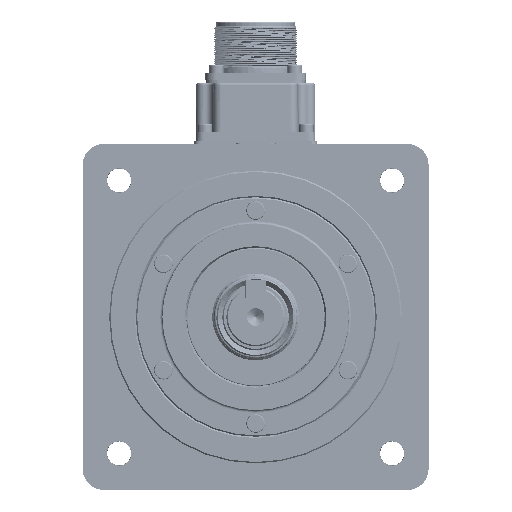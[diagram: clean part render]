
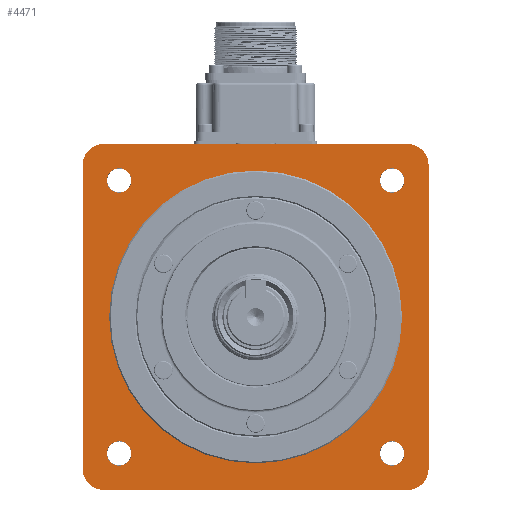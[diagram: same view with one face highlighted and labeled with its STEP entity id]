
A CAD part, front view. The second image highlights one B-rep face of the part: STEP entity #4471.
In plain terms, the highlighted planar face has unit normal (0, -1, 0).
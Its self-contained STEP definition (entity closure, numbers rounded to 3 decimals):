
#4471 = ADVANCED_FACE( '', ( #10458, #10459, #10460, #10461, #10462, #10463 ), #10464, .F. );
#10458 = FACE_BOUND( '', #21701, .T. );
#10459 = FACE_OUTER_BOUND( '', #21702, .T. );
#10460 = FACE_BOUND( '', #21703, .T. );
#10461 = FACE_BOUND( '', #21704, .T. );
#10462 = FACE_BOUND( '', #21705, .T. );
#10463 = FACE_BOUND( '', #21706, .T. );
#10464 = PLANE( '', #21707 );
#21701 = EDGE_LOOP( '', ( #45084 ) );
#21702 = EDGE_LOOP( '', ( #45085, #45086, #45087, #45088, #45089, #45090, #45091, #45092 ) );
#21703 = EDGE_LOOP( '', ( #45093 ) );
#21704 = EDGE_LOOP( '', ( #45094 ) );
#21705 = EDGE_LOOP( '', ( #45095 ) );
#21706 = EDGE_LOOP( '', ( #45096 ) );
#21707 = AXIS2_PLACEMENT_3D( '', #45097, #45098, #45099 );
#45084 = ORIENTED_EDGE( '', *, *, #66728, .F. );
#45085 = ORIENTED_EDGE( '', *, *, #66729, .F. );
#45086 = ORIENTED_EDGE( '', *, *, #66730, .T. );
#45087 = ORIENTED_EDGE( '', *, *, #66731, .F. );
#45088 = ORIENTED_EDGE( '', *, *, #66732, .T. );
#45089 = ORIENTED_EDGE( '', *, *, #66733, .F. );
#45090 = ORIENTED_EDGE( '', *, *, #66734, .T. );
#45091 = ORIENTED_EDGE( '', *, *, #65460, .F. );
#45092 = ORIENTED_EDGE( '', *, *, #66517, .T. );
#45093 = ORIENTED_EDGE( '', *, *, #66735, .F. );
#45094 = ORIENTED_EDGE( '', *, *, #66736, .F. );
#45095 = ORIENTED_EDGE( '', *, *, #66737, .F. );
#45096 = ORIENTED_EDGE( '', *, *, #65860, .F. );
#45097 = CARTESIAN_POINT( '', ( 0., 1.2, 55. ) );
#45098 = DIRECTION( '', ( 0., 1., 0. ) );
#45099 = DIRECTION( '', ( 0., 0., 1. ) );
#65460 = EDGE_CURVE( '', #74963, #74966, #74967, .F. );
#65860 = EDGE_CURVE( '', #75653, #75653, #75654, .F. );
#66517 = EDGE_CURVE( '', #74963, #76818, #76820, .T. );
#66728 = EDGE_CURVE( '', #77170, #77170, #77171, .T. );
#66729 = EDGE_CURVE( '', #77172, #76818, #77173, .F. );
#66730 = EDGE_CURVE( '', #77172, #77174, #77175, .T. );
#66731 = EDGE_CURVE( '', #77176, #77174, #77177, .F. );
#66732 = EDGE_CURVE( '', #77176, #77178, #77179, .T. );
#66733 = EDGE_CURVE( '', #77180, #77178, #77181, .F. );
#66734 = EDGE_CURVE( '', #77180, #74966, #77182, .T. );
#66735 = EDGE_CURVE( '', #77183, #77183, #77184, .F. );
#66736 = EDGE_CURVE( '', #77185, #77185, #77186, .F. );
#66737 = EDGE_CURVE( '', #77187, #77187, #77188, .F. );
#74963 = VERTEX_POINT( '', #88273 );
#74966 = VERTEX_POINT( '', #88277 );
#74967 = CIRCLE( '', #88278, 8. );
#75653 = VERTEX_POINT( '', #90933 );
#75654 = CIRCLE( '', #90934, 4.6 );
#76818 = VERTEX_POINT( '', #93465 );
#76820 = LINE( '', #93468, #93469 );
#77170 = VERTEX_POINT( '', #94047 );
#77171 = CIRCLE( '', #94048, 55. );
#77172 = VERTEX_POINT( '', #94049 );
#77173 = CIRCLE( '', #94050, 8. );
#77174 = VERTEX_POINT( '', #94051 );
#77175 = LINE( '', #94052, #94053 );
#77176 = VERTEX_POINT( '', #94054 );
#77177 = CIRCLE( '', #94055, 8. );
#77178 = VERTEX_POINT( '', #94056 );
#77179 = LINE( '', #94057, #94058 );
#77180 = VERTEX_POINT( '', #94059 );
#77181 = CIRCLE( '', #94060, 8. );
#77182 = LINE( '', #94061, #94062 );
#77183 = VERTEX_POINT( '', #94063 );
#77184 = CIRCLE( '', #94064, 4.6 );
#77185 = VERTEX_POINT( '', #94065 );
#77186 = CIRCLE( '', #94066, 4.6 );
#77187 = VERTEX_POINT( '', #94067 );
#77188 = CIRCLE( '', #94068, 4.6 );
#88273 = CARTESIAN_POINT( '', ( 57., 1.2, 65. ) );
#88277 = CARTESIAN_POINT( '', ( 65., 1.2, 57. ) );
#88278 = AXIS2_PLACEMENT_3D( '', #115438, #115439, #115440 );
#90933 = CARTESIAN_POINT( '', ( 51.265, 1.2, 55.866 ) );
#90934 = AXIS2_PLACEMENT_3D( '', #115895, #115896, #115897 );
#93465 = CARTESIAN_POINT( '', ( -57., 1.2, 65. ) );
#93468 = CARTESIAN_POINT( '', ( 65., 1.2, 65. ) );
#93469 = VECTOR( '', #116561, 1000. );
#94047 = CARTESIAN_POINT( '', ( 0., 1.2, -55. ) );
#94048 = AXIS2_PLACEMENT_3D( '', #116794, #116795, #116796 );
#94049 = CARTESIAN_POINT( '', ( -65., 1.2, 57. ) );
#94050 = AXIS2_PLACEMENT_3D( '', #116797, #116798, #116799 );
#94051 = CARTESIAN_POINT( '', ( -65., 1.2, -57. ) );
#94052 = CARTESIAN_POINT( '', ( -65., 1.2, 65. ) );
#94053 = VECTOR( '', #116800, 1000. );
#94054 = CARTESIAN_POINT( '', ( -57., 1.2, -65. ) );
#94055 = AXIS2_PLACEMENT_3D( '', #116801, #116802, #116803 );
#94056 = CARTESIAN_POINT( '', ( 57., 1.2, -65. ) );
#94057 = CARTESIAN_POINT( '', ( -65., 1.2, -65. ) );
#94058 = VECTOR( '', #116804, 1000. );
#94059 = CARTESIAN_POINT( '', ( 65., 1.2, -57. ) );
#94060 = AXIS2_PLACEMENT_3D( '', #116805, #116806, #116807 );
#94061 = CARTESIAN_POINT( '', ( 65., 1.2, -65. ) );
#94062 = VECTOR( '', #116808, 1000. );
#94063 = CARTESIAN_POINT( '', ( -51.265, 1.2, 55.866 ) );
#94064 = AXIS2_PLACEMENT_3D( '', #116809, #116810, #116811 );
#94065 = CARTESIAN_POINT( '', ( -51.265, 1.2, -46.665 ) );
#94066 = AXIS2_PLACEMENT_3D( '', #116812, #116813, #116814 );
#94067 = CARTESIAN_POINT( '', ( 51.265, 1.2, -46.665 ) );
#94068 = AXIS2_PLACEMENT_3D( '', #116815, #116816, #116817 );
#115438 = CARTESIAN_POINT( '', ( 57., 1.2, 57. ) );
#115439 = DIRECTION( '', ( 0., -1., 0. ) );
#115440 = DIRECTION( '', ( 0., 0., -1. ) );
#115895 = CARTESIAN_POINT( '', ( 51.265, 1.2, 51.265 ) );
#115896 = DIRECTION( '', ( 0., 1., 0. ) );
#115897 = DIRECTION( '', ( 0., 0., 1. ) );
#116561 = DIRECTION( '', ( -1., 0., 0. ) );
#116794 = CARTESIAN_POINT( '', ( 0., 1.2, 0. ) );
#116795 = DIRECTION( '', ( 0., -1., 0. ) );
#116796 = DIRECTION( '', ( 0., 0., -1. ) );
#116797 = CARTESIAN_POINT( '', ( -57., 1.2, 57. ) );
#116798 = DIRECTION( '', ( 0., -1., 0. ) );
#116799 = DIRECTION( '', ( 0., 0., -1. ) );
#116800 = DIRECTION( '', ( 0., 0., -1. ) );
#116801 = CARTESIAN_POINT( '', ( -57., 1.2, -57. ) );
#116802 = DIRECTION( '', ( 0., -1., 0. ) );
#116803 = DIRECTION( '', ( 0., 0., -1. ) );
#116804 = DIRECTION( '', ( 1., 0., 0. ) );
#116805 = CARTESIAN_POINT( '', ( 57., 1.2, -57. ) );
#116806 = DIRECTION( '', ( 0., -1., 0. ) );
#116807 = DIRECTION( '', ( 0., 0., -1. ) );
#116808 = DIRECTION( '', ( 0., 0., 1. ) );
#116809 = CARTESIAN_POINT( '', ( -51.265, 1.2, 51.265 ) );
#116810 = DIRECTION( '', ( 0., 1., 0. ) );
#116811 = DIRECTION( '', ( 0., 0., 1. ) );
#116812 = CARTESIAN_POINT( '', ( -51.265, 1.2, -51.265 ) );
#116813 = DIRECTION( '', ( 0., 1., 0. ) );
#116814 = DIRECTION( '', ( 0., 0., 1. ) );
#116815 = CARTESIAN_POINT( '', ( 51.265, 1.2, -51.265 ) );
#116816 = DIRECTION( '', ( 0., 1., 0. ) );
#116817 = DIRECTION( '', ( 0., 0., 1. ) );
